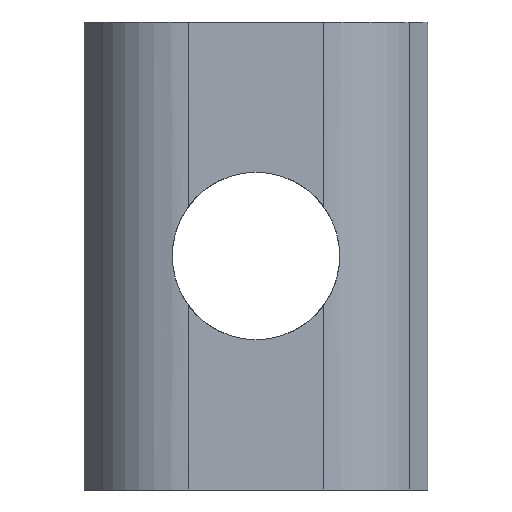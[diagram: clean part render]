
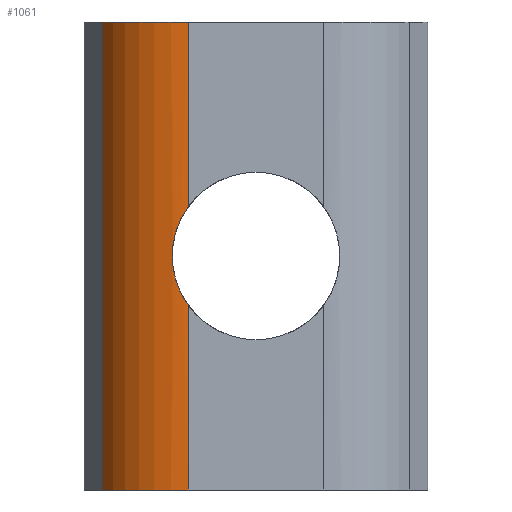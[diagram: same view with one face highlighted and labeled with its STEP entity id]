
A CAD part, front view. The second image highlights one B-rep face of the part: STEP entity #1061.
In plain terms, the highlighted cylindrical face has radius 4 mm (diameter 8 mm), a partial arc.
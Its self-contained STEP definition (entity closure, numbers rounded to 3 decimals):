
#38 = VERTEX_POINT ( 'NONE', #566 ) ;
#39 = LINE ( 'NONE', #383, #797 ) ;
#70 = CARTESIAN_POINT ( 'NONE',  ( -3.124, -5.184, 10.888 ) ) ;
#71 = DIRECTION ( 'NONE',  ( 1., 0., 0. ) ) ;
#102 = ORIENTED_EDGE ( 'NONE', *, *, #607, .T. ) ;
#120 = CARTESIAN_POINT ( 'NONE',  ( -2.754, -5.2, 0. ) ) ;
#124 = LINE ( 'NONE', #469, #489 ) ;
#134 = CARTESIAN_POINT ( 'NONE',  ( -6.219, -3.2, 19. ) ) ;
#142 = CIRCLE ( 'NONE', #318, 4. ) ;
#146 = CARTESIAN_POINT ( 'NONE',  ( -2.859, -5.2, 7.652 ) ) ;
#147 = EDGE_CURVE ( 'NONE', #464, #38, #710, .T. ) ;
#163 = B_SPLINE_CURVE_WITH_KNOTS ( 'NONE', 3,
 ( #277, #249, #70, #770, #505, #258, #334, #1002, #919, #255, #849, #521, #931, #780, #146, #907 ),
 .UNSPECIFIED., .F., .F.,
 ( 4, 2, 2, 2, 2, 2, 2, 4 ),
 ( 0., 0.001, 0.002, 0.002, 0.003, 0.003, 0.004, 0.004 ),
 .UNSPECIFIED. ) ;
#181 = EDGE_CURVE ( 'NONE', #1016, #803, #39, .T. ) ;
#196 = EDGE_CURVE ( 'NONE', #1016, #678, #142, .T. ) ;
#210 = DIRECTION ( 'NONE',  ( 0., 0., 1. ) ) ;
#249 = CARTESIAN_POINT ( 'NONE',  ( -2.964, -5.2, 11.203 ) ) ;
#255 = CARTESIAN_POINT ( 'NONE',  ( -3.331, -5.158, 8.796 ) ) ;
#258 = CARTESIAN_POINT ( 'NONE',  ( -3.386, -5.15, 9.857 ) ) ;
#277 = CARTESIAN_POINT ( 'NONE',  ( -2.754, -5.2, 11.493 ) ) ;
#286 = VERTEX_POINT ( 'NONE', #494 ) ;
#307 = DIRECTION ( 'NONE',  ( 0., 0., 1. ) ) ;
#318 = AXIS2_PLACEMENT_3D ( 'NONE', #941, #210, #715 ) ;
#324 = CARTESIAN_POINT ( 'NONE',  ( -2.754, -1.2, 0. ) ) ;
#326 = EDGE_CURVE ( 'NONE', #38, #803, #933, .T. ) ;
#329 = DIRECTION ( 'NONE',  ( 0., 0., -1. ) ) ;
#334 = CARTESIAN_POINT ( 'NONE',  ( -3.4, -5.148, 9.681 ) ) ;
#372 = ORIENTED_EDGE ( 'NONE', *, *, #196, .T. ) ;
#383 = CARTESIAN_POINT ( 'NONE',  ( -6.219, -3.2, 18.5 ) ) ;
#390 = DIRECTION ( 'NONE',  ( 0., 0., 1. ) ) ;
#402 = AXIS2_PLACEMENT_3D ( 'NONE', #324, #307, #654 ) ;
#464 = VERTEX_POINT ( 'NONE', #861 ) ;
#469 = CARTESIAN_POINT ( 'NONE',  ( -2.754, -5.2, 0. ) ) ;
#489 = VECTOR ( 'NONE', #543, 1000. ) ;
#493 = CARTESIAN_POINT ( 'NONE',  ( -2.754, -5.2, 0. ) ) ;
#494 = CARTESIAN_POINT ( 'NONE',  ( -2.754, -5.2, 7.507 ) ) ;
#505 = CARTESIAN_POINT ( 'NONE',  ( -3.331, -5.158, 10.206 ) ) ;
#521 = CARTESIAN_POINT ( 'NONE',  ( -3.181, -5.178, 8.287 ) ) ;
#543 = DIRECTION ( 'NONE',  ( 0., 0., 1. ) ) ;
#566 = CARTESIAN_POINT ( 'NONE',  ( -2.754, -5.2, 19. ) ) ;
#607 = EDGE_CURVE ( 'NONE', #678, #286, #124, .T. ) ;
#627 = ORIENTED_EDGE ( 'NONE', *, *, #326, .T. ) ;
#650 = CARTESIAN_POINT ( 'NONE',  ( -6.219, -3.2, 0. ) ) ;
#654 = DIRECTION ( 'NONE',  ( 1., 0., 0. ) ) ;
#663 = EDGE_CURVE ( 'NONE', #464, #286, #163, .T. ) ;
#675 = EDGE_LOOP ( 'NONE', ( #864, #952, #627, #843, #372, #102 ) ) ;
#678 = VERTEX_POINT ( 'NONE', #493 ) ;
#710 = LINE ( 'NONE', #120, #739 ) ;
#715 = DIRECTION ( 'NONE',  ( 1., 0., 0. ) ) ;
#739 = VECTOR ( 'NONE', #1028, 1000. ) ;
#770 = CARTESIAN_POINT ( 'NONE',  ( -3.289, -5.164, 10.38 ) ) ;
#780 = CARTESIAN_POINT ( 'NONE',  ( -2.952, -5.196, 7.804 ) ) ;
#797 = VECTOR ( 'NONE', #390, 1000. ) ;
#803 = VERTEX_POINT ( 'NONE', #134 ) ;
#843 = ORIENTED_EDGE ( 'NONE', *, *, #181, .F. ) ;
#849 = CARTESIAN_POINT ( 'NONE',  ( -3.29, -5.164, 8.625 ) ) ;
#861 = CARTESIAN_POINT ( 'NONE',  ( -2.754, -5.2, 11.493 ) ) ;
#864 = ORIENTED_EDGE ( 'NONE', *, *, #663, .F. ) ;
#906 = FACE_OUTER_BOUND ( 'NONE', #675, .T. ) ;
#907 = CARTESIAN_POINT ( 'NONE',  ( -2.754, -5.2, 7.507 ) ) ;
#915 = AXIS2_PLACEMENT_3D ( 'NONE', #1087, #329, #71 ) ;
#919 = CARTESIAN_POINT ( 'NONE',  ( -3.386, -5.15, 9.146 ) ) ;
#931 = CARTESIAN_POINT ( 'NONE',  ( -3.113, -5.185, 8.121 ) ) ;
#933 = CIRCLE ( 'NONE', #915, 4. ) ;
#941 = CARTESIAN_POINT ( 'NONE',  ( -2.754, -1.2, 0. ) ) ;
#952 = ORIENTED_EDGE ( 'NONE', *, *, #147, .T. ) ;
#1002 = CARTESIAN_POINT ( 'NONE',  ( -3.4, -5.148, 9.325 ) ) ;
#1016 = VERTEX_POINT ( 'NONE', #650 ) ;
#1028 = DIRECTION ( 'NONE',  ( 0., 0., 1. ) ) ;
#1061 = ADVANCED_FACE ( 'NONE', ( #906 ), #1085, .T. ) ;
#1085 = CYLINDRICAL_SURFACE ( 'NONE', #402, 4. ) ;
#1087 = CARTESIAN_POINT ( 'NONE',  ( -2.754, -1.2, 19. ) ) ;
